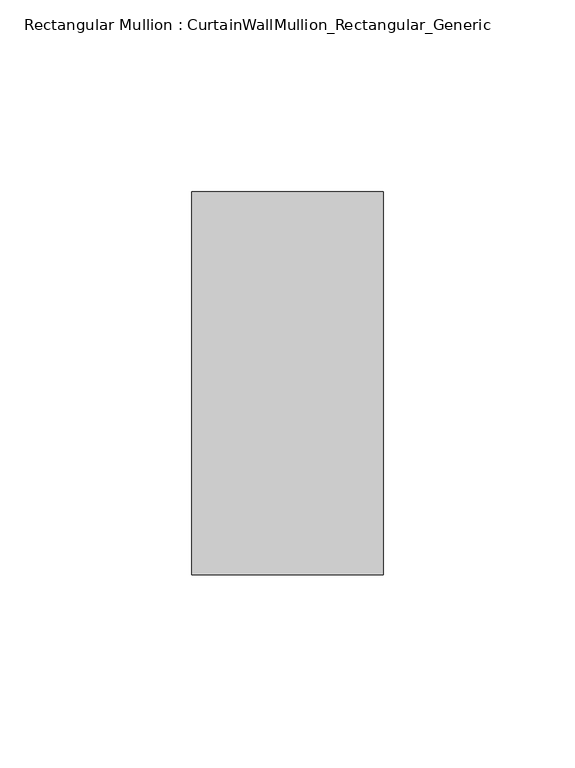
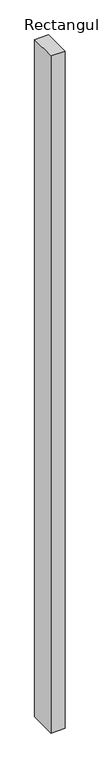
"""IFC4 building model written with IfcOpenShell, lengths in millimetres: member geometry, Rectangular Mullion : CurtainWallMullion_Rectangular_Generic."""

import ifcopenshell
import ifcopenshell.guid

model = None  # the IFC model being written
_history = None  # IfcOwnerHistory: only IFC2X3 demands one
_inside = {}  # id of a spatial element -> (the spatial element, [elements in it])
_under = {}  # id of a project, library or spatial element -> (it, [spatial elements below it])
_declared = {}  # id of a project -> (the project, [libraries it declares])
_typed = {}  # id of a type object -> (the type object, [elements of that type])
_made_of = {}  # id of a material, layer set ... -> (it, [elements and type objects made of it])


def new_model(schema):
    """Start an empty IFC model of exactly this schema.

    Asked for "IFC4X3", IfcOpenShell would pick the latest addendum, in which some entities
    have other attributes; the version numbers below select the first issue.
    IFC2X3 requires an IfcOwnerHistory on every rooted entity: one is made here for all.
    """
    global model, _history
    if schema == "IFC4X3":
        model = ifcopenshell.file(schema_version=(4, 3, 0, 0))
    else:
        model = ifcopenshell.file(schema=schema)
    _inside.clear()
    _under.clear()
    _declared.clear()
    _typed.clear()
    _made_of.clear()
    _history = None
    if model.schema == "IFC2X3":
        org = make("IfcOrganization", Name="unknown")
        user = make(
            "IfcPersonAndOrganization",
            ThePerson=make("IfcPerson", FamilyName="unknown"),
            TheOrganization=org,
        )
        app = make(
            "IfcApplication",
            ApplicationDeveloper=org,
            Version="unknown",
            ApplicationFullName="unknown",
            ApplicationIdentifier="unknown",
        )
        _history = make(
            "IfcOwnerHistory",
            OwningUser=user,
            OwningApplication=app,
            ChangeAction="ADDED",
            CreationDate=0,
        )
    return model


def make(cls, **values):
    """One entity of the class cls with the attributes given. An attribute that is None is left unset."""
    return model.create_entity(
        cls, **{name: value for name, value in values.items() if value is not None}
    )


def rooted(cls, **values):
    """An entity with a GlobalId (a new one), such as an element, a storey or a relation."""
    return make(cls, GlobalId=ifcopenshell.guid.new(), OwnerHistory=_history, **values)


def si_unit(unit_type, name, prefix=None):
    """IfcSIUnit, for example si_unit("LENGTHUNIT", "METRE", prefix="MILLI")."""
    return make("IfcSIUnit", UnitType=unit_type, Prefix=prefix, Name=name)


def assignment(units):
    """IfcUnitAssignment: the units of a project."""
    return None if units is None else make("IfcUnitAssignment", Units=units)


def point(xyz):
    """IfcCartesianPoint."""
    return None if xyz is None else make("IfcCartesianPoint", Coordinates=xyz)


def direction(xyz):
    """IfcDirection."""
    return None if xyz is None else make("IfcDirection", DirectionRatios=xyz)


def frame(location, z_axis=None, x_axis=None):
    """IfcAxis2Placement3D, a coordinate frame: its origin and axes. An axis left out is left unset."""
    return make(
        "IfcAxis2Placement3D",
        Location=point(location),
        Axis=direction(z_axis),
        RefDirection=direction(x_axis),
    )


def origin():
    """The frame at (0, 0, 0) with its axes left unset."""
    return frame((0.0, 0.0, 0.0))


def place(relative_to, where):
    """IfcLocalPlacement: puts the frame where relative to a parent placement (None: the world)."""
    return make(
        "IfcLocalPlacement", PlacementRelTo=relative_to, RelativePlacement=where
    )


def context(
    kind, dimensions, precision=None, world=None, true_north=None, identifier=None
):
    """IfcGeometricRepresentationContext, for example the 3D "Model" context."""
    return make(
        "IfcGeometricRepresentationContext",
        ContextIdentifier=identifier,
        ContextType=kind,
        CoordinateSpaceDimension=dimensions,
        Precision=precision,
        WorldCoordinateSystem=world,
        TrueNorth=true_north,
    )


def project(units=None, contexts=None):
    """IfcProject with its units and contexts."""
    return rooted(
        "IfcProject",
        Name="project",
        RepresentationContexts=contexts,
        UnitsInContext=assignment(units),
    )


def spatial(cls, under=None, at=None, **own):
    """A site, building, storey or space (cls), placed at a placement, below another one or the project."""
    s = rooted(cls, ObjectPlacement=at, **own)
    if under is not None:
        _under.setdefault(under.id(), (under, []))[1].append(s)
    return s


def polyline(points):
    """IfcPolyline through the points."""
    return make("IfcPolyline", Points=[point(p) for p in points])


def outline(outer, holes=None, kind="AREA"):
    """IfcArbitraryClosedProfileDef: a profile drawn as a closed curve; with holes, ...WithVoids."""
    if holes is None:
        return make("IfcArbitraryClosedProfileDef", ProfileType=kind, OuterCurve=outer)
    return make(
        "IfcArbitraryProfileDefWithVoids",
        ProfileType=kind,
        OuterCurve=outer,
        InnerCurves=holes,
    )


def extrude(swept, where, along, depth):
    """IfcExtrudedAreaSolid: the profile swept, set in the frame where, extruded along a direction by depth."""
    return make(
        "IfcExtrudedAreaSolid",
        SweptArea=swept,
        Position=where,
        ExtrudedDirection=direction(along),
        Depth=depth,
    )


def shape(context_of_items, identifier, shape_type, items):
    """IfcShapeRepresentation: the items that make up one representation, for example the "Body"."""
    return make(
        "IfcShapeRepresentation",
        ContextOfItems=context_of_items,
        RepresentationIdentifier=identifier,
        RepresentationType=shape_type,
        Items=items,
    )


def source(mapping_origin, context_of_items, identifier, shape_type, items):
    """IfcRepresentationMap: a shape defined once, which mapped items show again and again."""
    return make(
        "IfcRepresentationMap",
        MappingOrigin=mapping_origin,
        MappedRepresentation=shape(context_of_items, identifier, shape_type, items),
    )


def transform(
    local_origin,
    x_axis=None,
    y_axis=None,
    z_axis=None,
    scale=None,
    scale2=None,
    scale3=None,
    uniform=True,
):
    """IfcCartesianTransformationOperator3D, or its non-uniform kind. x_axis, y_axis, z_axis: its Axis1, 2, 3."""
    if uniform:
        return make(
            "IfcCartesianTransformationOperator3D",
            Axis1=direction(x_axis),
            Axis2=direction(y_axis),
            LocalOrigin=point(local_origin),
            Scale=scale,
            Axis3=direction(z_axis),
        )
    return make(
        "IfcCartesianTransformationOperator3DnonUniform",
        Axis1=direction(x_axis),
        Axis2=direction(y_axis),
        LocalOrigin=point(local_origin),
        Scale=scale,
        Axis3=direction(z_axis),
        Scale2=scale2,
        Scale3=scale3,
    )


def mapped(mapping_source, mapping_target):
    """IfcMappedItem: shows the shape of a source again, moved by a transform."""
    return make(
        "IfcMappedItem", MappingSource=mapping_source, MappingTarget=mapping_target
    )


def made_of(thing, what):
    """Note that an element or type object is made of a material, layer set ...; save() writes the relation."""
    if what is not None:
        _made_of.setdefault(what.id(), (what, []))[1].append(thing)
    return thing


def element(
    cls,
    number,
    at=None,
    inside=None,
    cuts=None,
    type_object=None,
    material=None,
    context=None,
    identifier="Body",
    shape_type=None,
    held_by="IfcProductDefinitionShape",
    body=None,
    shapes=None,
    **own,
):
    """One element of the class cls, such as IfcWall. Its Tag is "e" and its number.

    at: its placement. inside: the storey or other place that contains it. cuts: it is an
    opening in that element (IfcRelVoidsElement). A single representation is given by context,
    identifier, shape_type and body (its items); several are given by shapes. held_by: the class
    of the entity that holds the representations. save() writes the other relations.
    """
    e = rooted(cls, Tag="e%d" % number, ObjectPlacement=at, **own)
    if body is not None:
        shapes = [shape(context, identifier, shape_type, body)]
    if shapes is not None:
        e.Representation = make(held_by, Representations=shapes)
    if inside is not None:
        _inside.setdefault(inside.id(), (inside, []))[1].append(e)
    if cuts is not None:
        rooted(
            "IfcRelVoidsElement", RelatingBuildingElement=cuts, RelatedOpeningElement=e
        )
    if type_object is not None:
        _typed.setdefault(type_object.id(), (type_object, []))[1].append(e)
    return made_of(e, material)


def aggregate(whole, parts):
    """IfcRelAggregates: a whole, such as a stair, and the parts it consists of."""
    return rooted("IfcRelAggregates", RelatingObject=whole, RelatedObjects=parts)


def save(model, path):
    """Write the relations noted so far, then the file.

    IfcRelAggregates (storeys below a building ...), IfcRelContainedInSpatialStructure (elements
    in a storey), IfcRelDefinesByType, IfcRelAssociatesMaterial and IfcRelDeclares: one each for
    every whole, place, type object, material and project.
    """
    for whole, parts in _under.values():
        aggregate(whole, parts)
    for where, things in _inside.values():
        rooted(
            "IfcRelContainedInSpatialStructure",
            RelatedElements=things,
            RelatingStructure=where,
        )
    for kind, things in _typed.values():
        rooted("IfcRelDefinesByType", RelatedObjects=things, RelatingType=kind)
    for what, things in _made_of.values():
        rooted("IfcRelAssociatesMaterial", RelatedObjects=things, RelatingMaterial=what)
    for by, libraries in _declared.values():
        rooted("IfcRelDeclares", RelatingContext=by, RelatedDefinitions=libraries)
    model.write(path)


def rectangular_mullion_curtainwallmullion_rectangular_generic_1c0dcadd(model_context):
    return source(origin(), model_context, "Body", "SweptSolid", [
        extrude(outline(polyline([(0.0, 50.0), (0.0, -50.0), (-50.0, -50.0), (-50.0, 50.0), (0.0, 50.0)])), frame((0.0, 0.0, -2543.3333335), z_axis=(0.0, 0.0, 1.0), x_axis=(1.0, 0.0, 0.0)), (0.0, 0.0, 1.0), 2543.3333335),
    ])


if __name__ == "__main__":
    model = new_model("IFC4")
    model_context = context("Model", 3, world=origin())
    ifc_project = project(units=[si_unit("LENGTHUNIT", "METRE", prefix="MILLI")], contexts=[model_context])
    site = spatial("IfcSite", under=ifc_project)
    building = spatial("IfcBuilding", under=site)
    placement = place(None, origin())
    rectangular_mullion_curtainwallmullion_rectangular_generic_shape = rectangular_mullion_curtainwallmullion_rectangular_generic_1c0dcadd(model_context)
    element("IfcMember", 1, ObjectType="Rectangular Mullion : CurtainWallMullion_Rectangular_Generic", at=placement, inside=building, context=model_context, shape_type="MappedRepresentation", body=[
        mapped(rectangular_mullion_curtainwallmullion_rectangular_generic_shape, transform((0.0, 0.0, 0.0), x_axis=(1.0, 0.0, 0.0), y_axis=(0.0, 1.0, 0.0), z_axis=(0.0, 0.0, 1.0))),
    ])
    save(model, "model.ifc")
